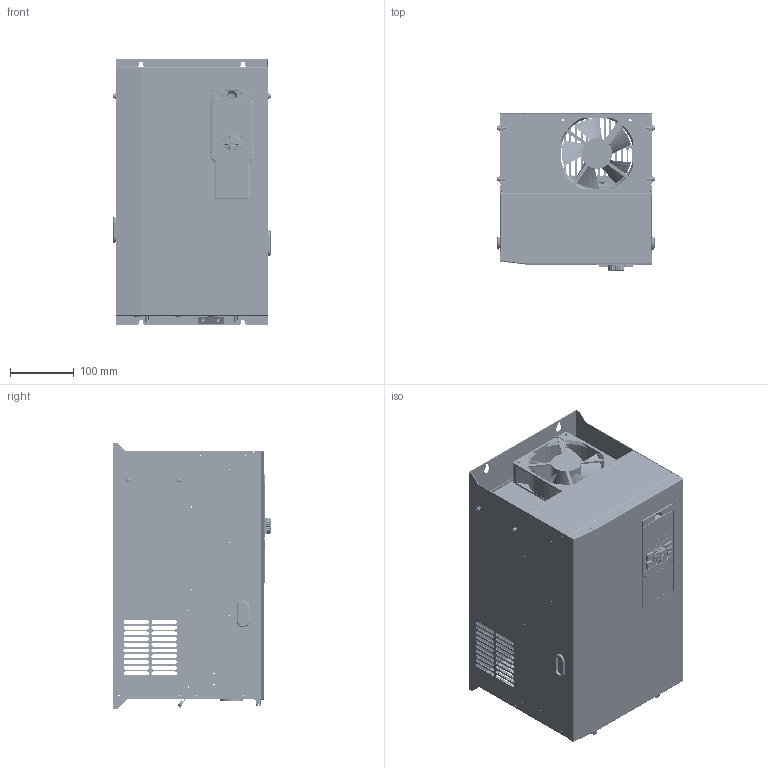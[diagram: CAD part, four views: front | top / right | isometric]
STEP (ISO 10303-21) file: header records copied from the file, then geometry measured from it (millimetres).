
FILE_DESCRIPTION((''),'2;1');
FILE_NAME('00-A8-37_ASM_93_ASM','2024-08-14T',('Administrator'),(''),'PRO/ENGINEER BY PARAMETRIC TECHNOLOGY CORPORATION, 2010280','PRO/ENGINEER BY PARAMETRIC TECHNOLOGY CORPORATION, 2010280','');
FILE_SCHEMA(('AUTOMOTIVE_DESIGN { 1 0 10303 214 1 1 1 1 }'));
Products named in the file (80): A8-37-01-01-01_55; A8-37-01-01-01_ASM_47_ASM; A8-37-01-01-02_48; S-M4-ZC_26; A8-37-01-01-02_ASM_39_ASM; A8-37-01-01-03_53; BSO-M3-10-ZC_27; BSO-M3-22-ZC_27; BSO-M3-8-ZC_27; S-M6-ZC_26; A8-37-01-01-03_ASM_49_ASM; A8-37-01-01-05_ASM_29_ASM; A8-37-01-01-06_15; A8-37-01-01-06_ASM_16_ASM; A8-37-01-01-07_14; A8-37-01-01-07_ASM_15_ASM; GB12617-90_4X8_30-R0_10_17; A8-37-01-01_ASM_61_ASM; A8-37-01-02_34; A8-37-01-02_ASM_37_ASM; A8-37-01-03_39; TPS-4-8-ZC_2; A8-37-01-03_ASM_36_ASM; A8-37-01-04_60; S-M3-ZC_26; A8-37-01-04_ASM_55_ASM; A8-37-01-05_20; A8-37-01-05_ASM_21_ASM; A8-37-01_ASM_64_ASM; BHQ22-8-23D5-00-C_24; A8Q-37-01B_ASM_13_ASM; A8-37-PCB_ASM_33_ASM; HXQ-20X42_14; HXQ-65X35_12; HXQ-50X28_12; MANIFOLD_SOLID_BREP_175873; MANIFOLD_SOLID_BREP_176092; MANIFOLD_SOLID_BREP_176325; GB9074-8-1988-M4X12_8_ASM; M4X8_8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
Assembly tree (160 placements, depth 6):
  00-A8-37_ASM_93_ASM
    A8-37-01_ASM_64_ASM
      A8-37-01-01_ASM_61_ASM
        A8-37-01-01-01_ASM_47_ASM
          A8-37-01-01-01_55
        A8-37-01-01-02_ASM_39_ASM
          A8-37-01-01-02_48
          S-M4-ZC_26  x2
        A8-37-01-01-03_ASM_49_ASM
          A8-37-01-01-03_53
          BSO-M3-10-ZC_27  x5
          BSO-M3-22-ZC_27  x2
          BSO-M3-8-ZC_27  x2
          S-M6-ZC_26  x2
        A8-37-01-01-05_ASM_29_ASM
        A8-37-01-01-06_ASM_16_ASM  x2
          A8-37-01-01-06_15
          S-M4-ZC_26
        A8-37-01-01-07_ASM_15_ASM  x2
          A8-37-01-01-07_14
          S-M4-ZC_26
        GB12617-90_4X8_30-R0_10_17  x37
      A8-37-01-02_ASM_37_ASM
        A8-37-01-02_34
        S-M4-ZC_26  x8
      A8-37-01-03_ASM_36_ASM
        A8-37-01-03_39
        TPS-4-8-ZC_2  x2
      A8-37-01-04_ASM_55_ASM
        A8-37-01-04_60
        S-M3-ZC_26  x8
      A8-37-01-05_ASM_21_ASM
        A8-37-01-05_20
        S-M3-ZC_26  x4
    A8-37-PCB_ASM_33_ASM
      A8Q-37-01B_ASM_13_ASM
        BHQ22-8-23D5-00-C_24
    A8-37-QJ_ASM_13_ASM
      HXQ-20X42_14  x2
      HXQ-65X35_12  x2
      HXQ-50X28_12
      GB9074-8-1988-M4X12_8_ASM  x5
        MANIFOLD_SOLID_BREP_175873
        MANIFOLD_SOLID_BREP_176092
        MANIFOLD_SOLID_BREP_176325
      M4X8_8  x2
      EMC-9MM_7
      12038_8_5
    A8-DZ_ASM_21_ASM
      A8-01-07_14
      A8-01-08_10
    A9-DZ_ASM_9_ASM
      A8-01-07_14
      A9-01-12_2
    00-A9-KZ_ASM_14_ASM
      A9-01_ASM_14_ASM
        A9-01-01_11
        A9-01-02_9
        A9-01-04_9
      A9KZPCB_ASM_12_ASM
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Bounding box: 249.61 x 249.5 x 418 mm (x, y, z)
Volume: 1426759.2 mm3; surface area: 1845720.5 mm2
Topology: 143 solids, 149 shells, 20109 faces, 57083 edges, 38856 vertices
Faces by surface type: plane 16762, cylinder 2284, cone 671, torus 174, bspline 160, sphere 58
Entity records: 460406 total; most frequent: CARTESIAN_POINT 77799, ORIENTED_EDGE 61574, DIRECTION 58770, EDGE_CURVE 30814, VECTOR 26286, LINE 26286, VERTEX_POINT 20329, PRESENTATION_STYLE_ASSIGNMENT 17875
